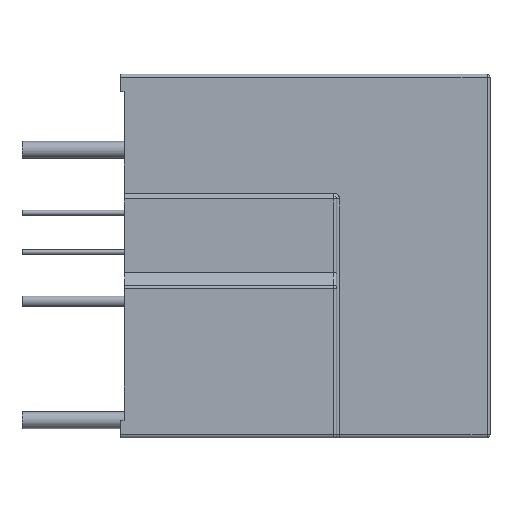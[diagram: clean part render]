
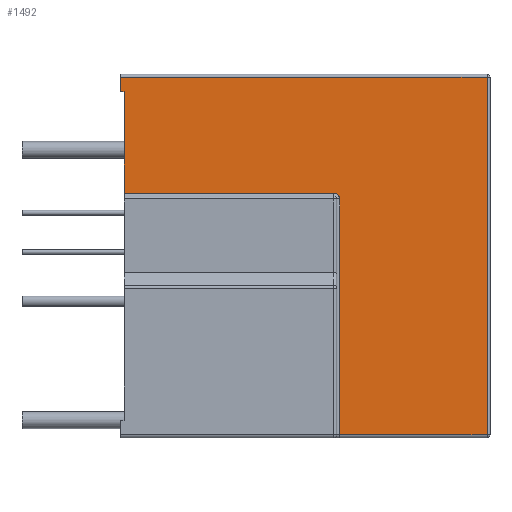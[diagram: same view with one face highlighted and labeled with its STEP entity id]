
A CAD part, left-side view. The second image highlights one B-rep face of the part: STEP entity #1492.
In plain terms, the highlighted planar face has unit normal (-1, 0, 0).
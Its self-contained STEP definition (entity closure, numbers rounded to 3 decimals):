
#140=DIRECTION('',(0.,0.,1.));
#141=VECTOR('',#140,1.5);
#142=CARTESIAN_POINT('',(-6.3,37.6,-1.8));
#143=LINE('',#142,#141);
#218=DIRECTION('',(0.,0.,1.));
#219=VECTOR('',#218,10.3);
#220=CARTESIAN_POINT('',(-6.3,37.2,-12.1));
#221=LINE('',#220,#219);
#418=DIRECTION('',(0.,1.,0.));
#419=VECTOR('',#418,21.3);
#420=CARTESIAN_POINT('',(-6.3,15.9,-12.1));
#421=LINE('',#420,#419);
#422=DIRECTION('',(0.,1.,0.));
#423=VECTOR('',#422,0.4);
#424=CARTESIAN_POINT('',(-6.3,37.2,-1.8));
#425=LINE('',#424,#423);
#426=DIRECTION('',(0.,1.,0.));
#427=VECTOR('',#426,37.3);
#428=CARTESIAN_POINT('',(-6.3,0.3,-0.3));
#429=LINE('',#428,#427);
#430=DIRECTION('',(0.,0.,1.));
#431=VECTOR('',#430,36.4);
#432=CARTESIAN_POINT('',(-6.3,0.3,-36.7));
#433=LINE('',#432,#431);
#434=DIRECTION('',(0.,1.,0.));
#435=VECTOR('',#434,15.);
#436=CARTESIAN_POINT('',(-6.3,0.3,-36.7));
#437=LINE('',#436,#435);
#438=DIRECTION('',(0.,0.,1.));
#439=VECTOR('',#438,24.);
#440=CARTESIAN_POINT('',(-6.3,15.3,-36.7));
#441=LINE('',#440,#439);
#442=CARTESIAN_POINT('',(-6.3,15.9,-12.7));
#443=DIRECTION('',(1.,0.,0.));
#444=DIRECTION('',(0.,0.,1.));
#445=AXIS2_PLACEMENT_3D('',#442,#443,#444);
#811=CARTESIAN_POINT('',(-6.3,37.6,-1.8));
#812=VERTEX_POINT('',#811);
#839=CARTESIAN_POINT('',(-6.3,37.2,-1.8));
#840=VERTEX_POINT('',#839);
#907=CARTESIAN_POINT('',(-6.3,15.9,-12.1));
#908=CARTESIAN_POINT('',(-6.3,37.2,-12.1));
#909=VERTEX_POINT('',#907);
#910=VERTEX_POINT('',#908);
#959=CARTESIAN_POINT('',(-6.3,37.6,-0.3));
#961=VERTEX_POINT('',#959);
#963=CARTESIAN_POINT('',(-6.3,0.3,-0.3));
#964=VERTEX_POINT('',#963);
#965=CARTESIAN_POINT('',(-6.3,0.3,-36.7));
#966=VERTEX_POINT('',#965);
#967=CARTESIAN_POINT('',(-6.3,15.3,-36.7));
#968=VERTEX_POINT('',#967);
#987=CARTESIAN_POINT('',(-6.3,15.3,-12.7));
#988=VERTEX_POINT('',#987);
#1469=CARTESIAN_POINT('',(-6.3,0.,-12.4));
#1470=DIRECTION('',(-1.,0.,0.));
#1471=DIRECTION('',(0.,0.,1.));
#1472=AXIS2_PLACEMENT_3D('',#1469,#1470,#1471);
#1473=PLANE('',#1472);
#1475=ORIENTED_EDGE('',*,*,#1474,.T.);
#1476=ORIENTED_EDGE('',*,*,#1192,.T.);
#1478=ORIENTED_EDGE('',*,*,#1477,.T.);
#1479=ORIENTED_EDGE('',*,*,#1158,.T.);
#1481=ORIENTED_EDGE('',*,*,#1480,.F.);
#1483=ORIENTED_EDGE('',*,*,#1482,.F.);
#1485=ORIENTED_EDGE('',*,*,#1484,.T.);
#1487=ORIENTED_EDGE('',*,*,#1486,.T.);
#1489=ORIENTED_EDGE('',*,*,#1488,.F.);
#1490=EDGE_LOOP('',(#1475,#1476,#1478,#1479,#1481,#1483,#1485,#1487,#1489));
#1491=FACE_OUTER_BOUND('',#1490,.F.);
#1492=ADVANCED_FACE('',(#1491),#1473,.T.);
#446=CIRCLE('',#445,0.6);
#1158=EDGE_CURVE('',#812,#961,#143,.T.);
#1192=EDGE_CURVE('',#910,#840,#221,.T.);
#1474=EDGE_CURVE('',#909,#910,#421,.T.);
#1477=EDGE_CURVE('',#840,#812,#425,.T.);
#1480=EDGE_CURVE('',#964,#961,#429,.T.);
#1482=EDGE_CURVE('',#966,#964,#433,.T.);
#1484=EDGE_CURVE('',#966,#968,#437,.T.);
#1486=EDGE_CURVE('',#968,#988,#441,.T.);
#1488=EDGE_CURVE('',#909,#988,#446,.T.);
